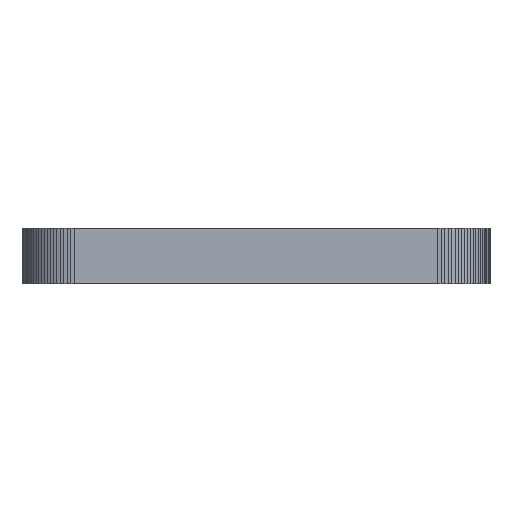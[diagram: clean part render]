
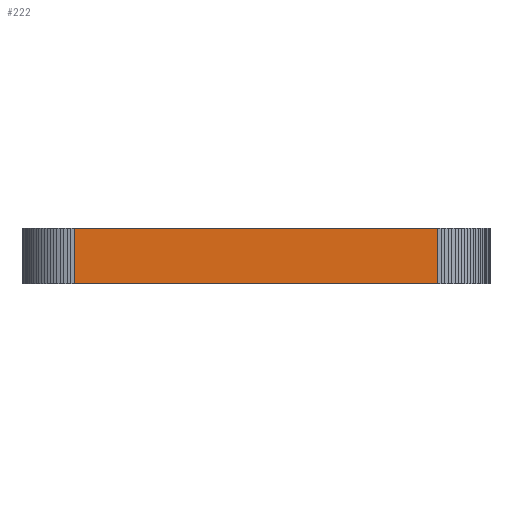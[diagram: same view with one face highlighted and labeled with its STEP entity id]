
A CAD part, front view. The second image highlights one B-rep face of the part: STEP entity #222.
In plain terms, the highlighted free-form (B-spline) face has degree [1, 1] with [2, 2] control points.
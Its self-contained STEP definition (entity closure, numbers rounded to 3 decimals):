
#21 = EDGE_CURVE('',#22,#24,#26,.T.);
#22 = VERTEX_POINT('',#23);
#23 = CARTESIAN_POINT('',(2.,-101.75,8.)
  );
#24 = VERTEX_POINT('',#25);
#25 = CARTESIAN_POINT('',(2.,-101.75,12.
    ));
#26 = SURFACE_CURVE('',#27,(#30,#42),.PCURVE_S1.);
#27 = B_SPLINE_CURVE_WITH_KNOTS('',1,(#28,#29),.UNSPECIFIED.,.F.,.F.,(2,
    2),(0.,314.961),.PIECEWISE_BEZIER_KNOTS.);
#28 = CARTESIAN_POINT('',(2.,-101.75,8.)
  );
#29 = CARTESIAN_POINT('',(2.,-101.75,12.
    ));
#30 = PCURVE('',#31,#36);
#31 = B_SPLINE_SURFACE_WITH_KNOTS('',1,1,(
    (#32,#33)
    ,(#34,#35
    )),.UNSPECIFIED.,.F.,.F.,.F.,(2,2),(2,2),(0.,10.081),(
    -314.961,0.),.PIECEWISE_BEZIER_KNOTS.);
#32 = CARTESIAN_POINT('',(2.,-101.75,12.
    ));
#33 = CARTESIAN_POINT('',(2.,-101.75,8.)
  );
#34 = CARTESIAN_POINT('',(1.744,-101.741,12.)
  );
#35 = CARTESIAN_POINT('',(1.744,-101.741,8.));
#36 = DEFINITIONAL_REPRESENTATION('',(#37),#41);
#37 = B_SPLINE_CURVE_WITH_KNOTS('',2,(#38,#39,#40),.UNSPECIFIED.,.F.,.F.
  ,(3,3),(0.,314.961),.PIECEWISE_BEZIER_KNOTS.);
#38 = CARTESIAN_POINT('',(0.,0.));
#39 = CARTESIAN_POINT('',(0.,-157.48));
#40 = CARTESIAN_POINT('',(0.,-314.961));
#41 = ( GEOMETRIC_REPRESENTATION_CONTEXT(2) 
PARAMETRIC_REPRESENTATION_CONTEXT() REPRESENTATION_CONTEXT('2D SPACE',''
  ) );
#42 = PCURVE('',#43,#48);
#43 = B_SPLINE_SURFACE_WITH_KNOTS('',1,1,(
    (#44,#45)
    ,(#46,#47
  )),.UNSPECIFIED.,.F.,.F.,.F.,(2,2),(2,2),(0.,1023.622),(-314.961
    ,0.),.PIECEWISE_BEZIER_KNOTS.);
#44 = CARTESIAN_POINT('',(28.,-101.75,
    12.));
#45 = CARTESIAN_POINT('',(28.,-101.75,8.)
  );
#46 = CARTESIAN_POINT('',(2.,-101.75,12.
    ));
#47 = CARTESIAN_POINT('',(2.,-101.75,8.)
  );
#48 = DEFINITIONAL_REPRESENTATION('',(#49),#53);
#49 = B_SPLINE_CURVE_WITH_KNOTS('',2,(#50,#51,#52),.UNSPECIFIED.,.F.,.F.
  ,(3,3),(0.,314.961),.PIECEWISE_BEZIER_KNOTS.);
#50 = CARTESIAN_POINT('',(1023.622,0.));
#51 = CARTESIAN_POINT('',(1023.622,-157.48));
#52 = CARTESIAN_POINT('',(1023.622,-314.961));
#53 = ( GEOMETRIC_REPRESENTATION_CONTEXT(2) 
PARAMETRIC_REPRESENTATION_CONTEXT() REPRESENTATION_CONTEXT('2D SPACE',''
  ) );
#70 = B_SPLINE_SURFACE_WITH_KNOTS('',1,1,(
    (#71,#72)
    ,(#73,#74
    )),.UNSPECIFIED.,.F.,.F.,.F.,(2,2),(2,2),(-659.449,659.449),(
    -2037.402,2037.402),.PIECEWISE_BEZIER_KNOTS.);
#71 = CARTESIAN_POINT('',(31.75,-101.75,12.
    ));
#72 = CARTESIAN_POINT('',(31.75,1.75,12.)
  );
#73 = CARTESIAN_POINT('',(-1.75,-101.75,
    12.));
#74 = CARTESIAN_POINT('',(-1.75,1.75,12.
    ));
#121 = B_SPLINE_SURFACE_WITH_KNOTS('',1,1,(
    (#122,#123)
    ,(#124,#125
    )),.UNSPECIFIED.,.F.,.F.,.F.,(2,2),(2,2),(-659.449,659.449),(
    -2037.402,2037.402),.PIECEWISE_BEZIER_KNOTS.);
#122 = CARTESIAN_POINT('',(31.75,-101.75,8.)
  );
#123 = CARTESIAN_POINT('',(31.75,1.75,8.)
  );
#124 = CARTESIAN_POINT('',(-1.75,-101.75,8.
    ));
#125 = CARTESIAN_POINT('',(-1.75,1.75,8.)
  );
#222 = ADVANCED_FACE('',(#223),#43,.T.);
#223 = FACE_BOUND('',#224,.T.);
#224 = EDGE_LOOP('',(#225,#254,#273,#274));
#225 = ORIENTED_EDGE('',*,*,#226,.T.);
#226 = EDGE_CURVE('',#227,#229,#231,.T.);
#227 = VERTEX_POINT('',#228);
#228 = CARTESIAN_POINT('',(28.,-101.75,8.
    ));
#229 = VERTEX_POINT('',#230);
#230 = CARTESIAN_POINT('',(28.,-101.75,
    12.));
#231 = SURFACE_CURVE('',#232,(#235,#242),.PCURVE_S1.);
#232 = B_SPLINE_CURVE_WITH_KNOTS('',1,(#233,#234),.UNSPECIFIED.,.F.,.F.,
  (2,2),(0.,314.961),.PIECEWISE_BEZIER_KNOTS.);
#233 = CARTESIAN_POINT('',(28.,-101.75,8.
    ));
#234 = CARTESIAN_POINT('',(28.,-101.75,
    12.));
#235 = PCURVE('',#43,#236);
#236 = DEFINITIONAL_REPRESENTATION('',(#237),#241);
#237 = B_SPLINE_CURVE_WITH_KNOTS('',2,(#238,#239,#240),.UNSPECIFIED.,.F.
  ,.F.,(3,3),(0.,314.961),.PIECEWISE_BEZIER_KNOTS.);
#238 = CARTESIAN_POINT('',(0.,0.));
#239 = CARTESIAN_POINT('',(0.,-157.48));
#240 = CARTESIAN_POINT('',(0.,-314.961));
#241 = ( GEOMETRIC_REPRESENTATION_CONTEXT(2) 
PARAMETRIC_REPRESENTATION_CONTEXT() REPRESENTATION_CONTEXT('2D SPACE',''
  ) );
#242 = PCURVE('',#243,#248);
#243 = B_SPLINE_SURFACE_WITH_KNOTS('',1,1,(
    (#244,#245)
    ,(#246,#247
    )),.UNSPECIFIED.,.F.,.F.,.F.,(2,2),(2,2),(0.,10.081),(
    -314.961,0.),.PIECEWISE_BEZIER_KNOTS.);
#244 = CARTESIAN_POINT('',(28.256,-101.741,12.
    ));
#245 = CARTESIAN_POINT('',(28.256,-101.741,8.)
  );
#246 = CARTESIAN_POINT('',(28.,-101.75,
    12.));
#247 = CARTESIAN_POINT('',(28.,-101.75,8.
    ));
#248 = DEFINITIONAL_REPRESENTATION('',(#249),#253);
#249 = B_SPLINE_CURVE_WITH_KNOTS('',2,(#250,#251,#252),.UNSPECIFIED.,.F.
  ,.F.,(3,3),(0.,314.961),.PIECEWISE_BEZIER_KNOTS.);
#250 = CARTESIAN_POINT('',(10.081,0.));
#251 = CARTESIAN_POINT('',(10.081,-157.48));
#252 = CARTESIAN_POINT('',(10.081,-314.961));
#253 = ( GEOMETRIC_REPRESENTATION_CONTEXT(2) 
PARAMETRIC_REPRESENTATION_CONTEXT() REPRESENTATION_CONTEXT('2D SPACE',''
  ) );
#254 = ORIENTED_EDGE('',*,*,#255,.T.);
#255 = EDGE_CURVE('',#229,#24,#256,.T.);
#256 = SURFACE_CURVE('',#257,(#260,#267),.PCURVE_S1.);
#257 = B_SPLINE_CURVE_WITH_KNOTS('',1,(#258,#259),.UNSPECIFIED.,.F.,.F.,
  (2,2),(0.,1023.622),.PIECEWISE_BEZIER_KNOTS.);
#258 = CARTESIAN_POINT('',(28.,-101.75,
    12.));
#259 = CARTESIAN_POINT('',(2.,-101.75,
    12.));
#260 = PCURVE('',#43,#261);
#261 = DEFINITIONAL_REPRESENTATION('',(#262),#266);
#262 = B_SPLINE_CURVE_WITH_KNOTS('',2,(#263,#264,#265),.UNSPECIFIED.,.F.
  ,.F.,(3,3),(0.,1023.622),.PIECEWISE_BEZIER_KNOTS.);
#263 = CARTESIAN_POINT('',(0.,-314.961));
#264 = CARTESIAN_POINT('',(511.811,-314.961));
#265 = CARTESIAN_POINT('',(1023.622,-314.961));
#266 = ( GEOMETRIC_REPRESENTATION_CONTEXT(2) 
PARAMETRIC_REPRESENTATION_CONTEXT() REPRESENTATION_CONTEXT('2D SPACE',''
  ) );
#267 = PCURVE('',#70,#268);
#268 = DEFINITIONAL_REPRESENTATION('',(#269),#272);
#269 = B_SPLINE_CURVE_WITH_KNOTS('',1,(#270,#271),.UNSPECIFIED.,.F.,.F.,
  (2,2),(0.,1023.622),.PIECEWISE_BEZIER_KNOTS.);
#270 = CARTESIAN_POINT('',(-511.811,-2037.402));
#271 = CARTESIAN_POINT('',(511.811,-2037.402));
#272 = ( GEOMETRIC_REPRESENTATION_CONTEXT(2) 
PARAMETRIC_REPRESENTATION_CONTEXT() REPRESENTATION_CONTEXT('2D SPACE',''
  ) );
#273 = ORIENTED_EDGE('',*,*,#21,.F.);
#274 = ORIENTED_EDGE('',*,*,#275,.F.);
#275 = EDGE_CURVE('',#227,#22,#276,.T.);
#276 = SURFACE_CURVE('',#277,(#280,#287),.PCURVE_S1.);
#277 = B_SPLINE_CURVE_WITH_KNOTS('',1,(#278,#279),.UNSPECIFIED.,.F.,.F.,
  (2,2),(0.,1023.622),.PIECEWISE_BEZIER_KNOTS.);
#278 = CARTESIAN_POINT('',(28.,-101.75,8.
    ));
#279 = CARTESIAN_POINT('',(2.,-101.75,8.)
  );
#280 = PCURVE('',#43,#281);
#281 = DEFINITIONAL_REPRESENTATION('',(#282),#286);
#282 = B_SPLINE_CURVE_WITH_KNOTS('',2,(#283,#284,#285),.UNSPECIFIED.,.F.
  ,.F.,(3,3),(0.,1023.622),.PIECEWISE_BEZIER_KNOTS.);
#283 = CARTESIAN_POINT('',(0.,0.));
#284 = CARTESIAN_POINT('',(511.811,0.));
#285 = CARTESIAN_POINT('',(1023.622,0.));
#286 = ( GEOMETRIC_REPRESENTATION_CONTEXT(2) 
PARAMETRIC_REPRESENTATION_CONTEXT() REPRESENTATION_CONTEXT('2D SPACE',''
  ) );
#287 = PCURVE('',#121,#288);
#288 = DEFINITIONAL_REPRESENTATION('',(#289),#293);
#289 = B_SPLINE_CURVE_WITH_KNOTS('',2,(#290,#291,#292),.UNSPECIFIED.,.F.
  ,.F.,(3,3),(0.,1023.622),.PIECEWISE_BEZIER_KNOTS.);
#290 = CARTESIAN_POINT('',(-511.811,-2037.402));
#291 = CARTESIAN_POINT('',(0.,-2037.402));
#292 = CARTESIAN_POINT('',(511.811,-2037.402));
#293 = ( GEOMETRIC_REPRESENTATION_CONTEXT(2) 
PARAMETRIC_REPRESENTATION_CONTEXT() REPRESENTATION_CONTEXT('2D SPACE',''
  ) );
